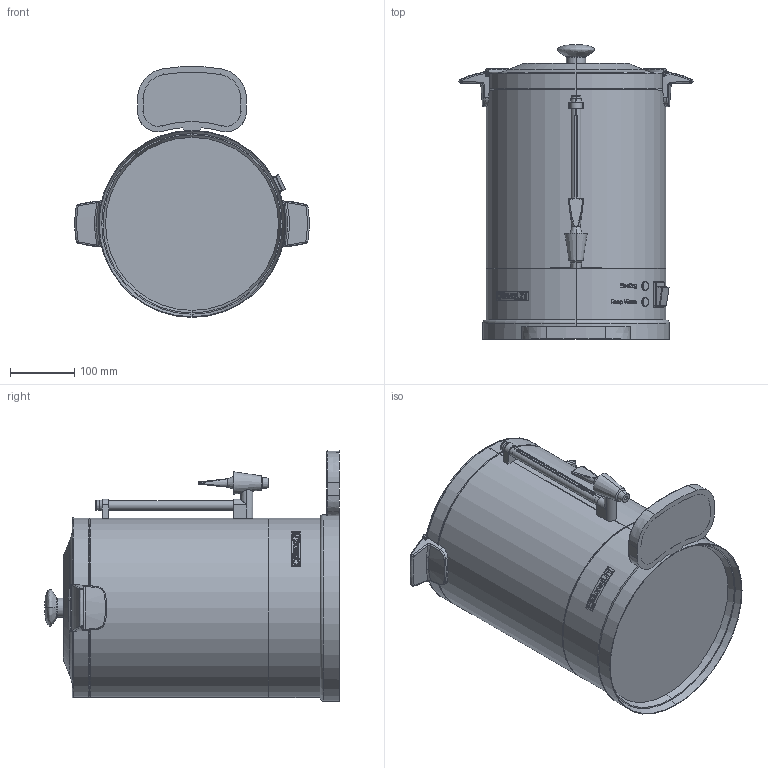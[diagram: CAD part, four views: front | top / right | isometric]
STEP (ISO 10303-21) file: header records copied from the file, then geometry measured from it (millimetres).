
FILE_DESCRIPTION (( 'STEP AP214' ), '1' );
FILE_NAME ('pres-CPC100.STEP', '2025-01-28T15:11:12', ( '' ), ( '' ), 'SwSTEP 2.0', 'SolidWorks 2025', '' );
FILE_SCHEMA (( 'AUTOMOTIVE_DESIGN' ));
Length unit declared in the file: millimetre
Products named in the file (26): Capuchon-perco; Corps-perco-dbl-bas100S; Jauge-perco; Nota-On-perco100S; Support-haut-perco; Fixation-p1-couvercle-haut100S; ASS-corps-perco-dbl100S; Nota-heating-perco100S; Support-bas-perco; Poignée-corps-perco100S; Socle-perco100S; couvercle-perco100S; ASS-base-perco100S; Base-perco100S; Bouton-commande-perco; ASS-couvercle-perco100S; Nota-KeepWarm-perco100S; ASS-jauge-perco; Corps-perco-dbl-haut100S; LOGO-CASSELIN-perco100S; Bac-reception-perco; ASS-bac-reception; Nota-Off-perco100S; pres-CPC100; Plaque-reception-perco; Bouton-perco
Assembly tree (28 placements, depth 3):
  pres-CPC100
    Socle-perco100S
    ASS-base-perco100S
      Base-perco100S
      Bouton-perco
      Bouton-commande-perco  x2
      LOGO-CASSELIN-perco100S
      Nota-heating-perco100S
      Nota-KeepWarm-perco100S
      Nota-On-perco100S
      Nota-Off-perco100S
    ASS-corps-perco-dbl100S
      Corps-perco-dbl-haut100S
      Poignée-corps-perco100S  x2
      Corps-perco-dbl-bas100S
    ASS-couvercle-perco100S
      couvercle-perco100S
      Fixation-p1-couvercle-haut100S  x2
    ASS-bac-reception
      Bac-reception-perco
      Plaque-reception-perco
    ASS-jauge-perco
      Jauge-perco
      Capuchon-perco
      Support-haut-perco
      Support-bas-perco
Bounding box: 365.39 x 460 x 391.54 mm (x, y, z)
Volume: 1518849.7 mm3; surface area: 1154405.1 mm2
Topology: 43 solids, 43 shells, 946 faces, 2394 edges, 1537 vertices
Faces by surface type: bspline 334, cylinder 227, plane 207, torus 107, cone 65, sphere 6
Entity records: 71533 total; most frequent: CARTESIAN_POINT 50791, ORIENTED_EDGE 4358, DIRECTION 2583, EDGE_CURVE 2179, VERTEX_POINT 1410, B_SPLINE_CURVE_WITH_KNOTS 1331, AXIS2_PLACEMENT_3D 1150, EDGE_LOOP 977
